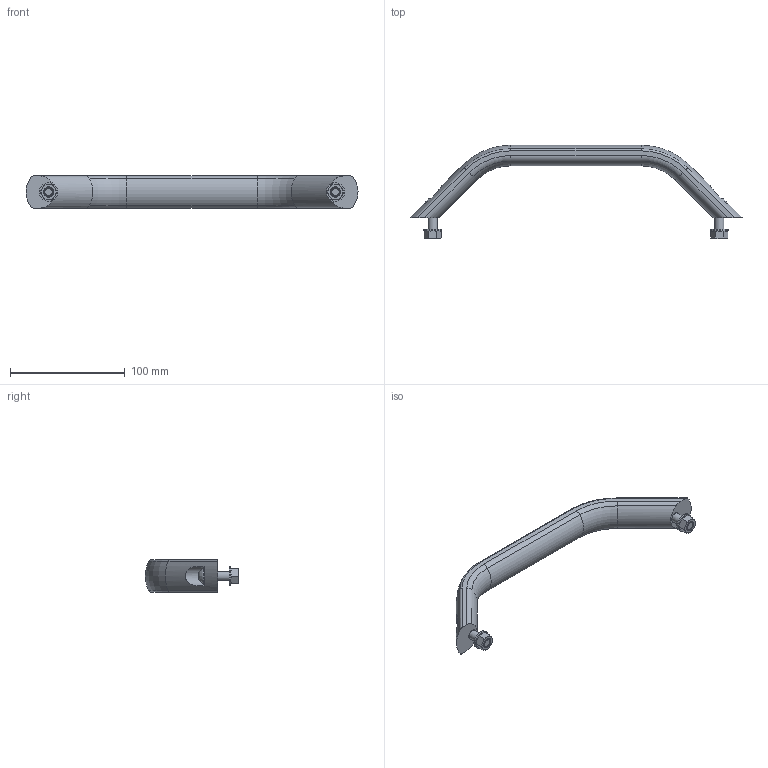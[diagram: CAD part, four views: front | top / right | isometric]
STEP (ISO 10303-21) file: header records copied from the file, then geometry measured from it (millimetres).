
FILE_DESCRIPTION( ( 'STEP AP203' ), '1' );
FILE_NAME( 'C:/Temp/Ganter_Step_05_03_2020/data/1_2/gn_428/gn_428_b/Cabinet U-handle GN 428-AL-28-250-B-SW.stp', '2020-03-05T10:11:34', ( 'License CC BY-ND 4.0' ), ( 'CADENAS' ), ' ', 'PARTsolutions', ' ' );
FILE_SCHEMA( ( 'CONFIG_CONTROL_DESIGN' ) );
Length unit declared in the file: millimetre
Products named in the file (1): _Cabinet U-handle GN 428-AL-28-250-B-SW
Bounding box: 289.43 x 81.4 x 28 mm (x, y, z)
Volume: 126446 mm3; surface area: 28560.2 mm2
Topology: 1 solids, 1 shells, 127 faces, 279 edges, 172 vertices
Faces by surface type: plane 56, cylinder 32, cone 25, torus 12, bspline 2
Full cylindrical faces by diameter (mm): 8 x4, 8.4 x2, 9 x2, 14 x2, 16 x2
Entity records: 3692 total; most frequent: CARTESIAN_POINT 956, DIRECTION 572, ORIENTED_EDGE 514, EDGE_CURVE 257, AXIS2_PLACEMENT_3D 239, VERTEX_POINT 171, EDGE_LOOP 166, FACE_OUTER_BOUND 141
